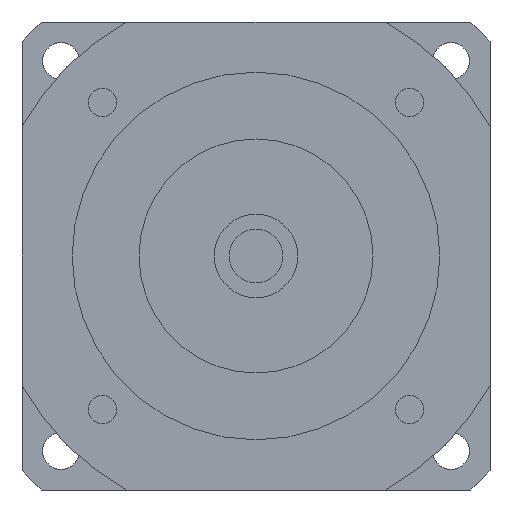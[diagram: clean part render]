
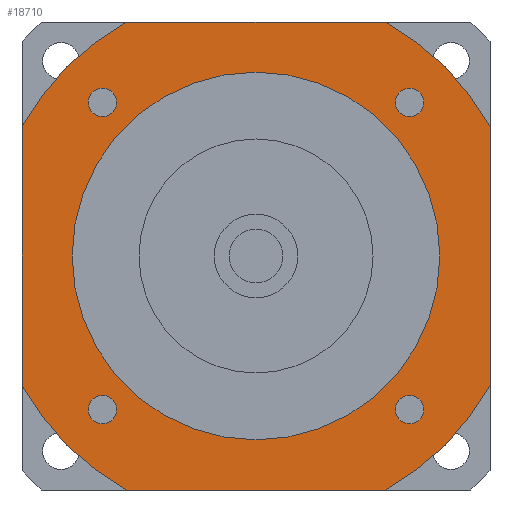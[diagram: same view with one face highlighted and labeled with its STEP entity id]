
A CAD part, left-side view. The second image highlights one B-rep face of the part: STEP entity #18710.
In plain terms, the highlighted planar face has unit normal (-1, 0, 0) as drawn and (0, 0, -1) by its records, which use the part's own axes.
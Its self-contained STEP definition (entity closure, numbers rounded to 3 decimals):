
#15900=CARTESIAN_POINT('',(-38.73,-70.,-59.7));
#15910=VERTEX_POINT('',#15900);
#15940=CARTESIAN_POINT('',(0.,0.,
-59.7));
#15950=DIRECTION('',(0.,0.,-1.));
#15960=DIRECTION('',(1.,0.,0.));
#15970=AXIS2_PLACEMENT_3D('',#15940,#15950,#15960);
#15980=CIRCLE('',#15970,80.);
#15990=CARTESIAN_POINT('',(-70.,-38.73,-59.7));
#16000=VERTEX_POINT('',#15990);
#16010=EDGE_CURVE('',#15910,#16000,#15980,.T.);
#16190=CARTESIAN_POINT('',(-70.,-70.,-59.7));
#16200=DIRECTION('',(0.,1.,0.));
#16210=VECTOR('',#16200,1000.);
#16220=LINE('',#16190,#16210);
#16230=CARTESIAN_POINT('',(-70.,38.73,-59.7));
#16240=VERTEX_POINT('',#16230);
#16250=EDGE_CURVE('',#16000,#16240,#16220,.T.);
#16460=CARTESIAN_POINT('',(70.,-38.73,-59.7));
#16470=VERTEX_POINT('',#16460);
#16500=CARTESIAN_POINT('',(0.,0.,
-59.7));
#16510=DIRECTION('',(0.,0.,-1.));
#16520=DIRECTION('',(1.,0.,0.));
#16530=AXIS2_PLACEMENT_3D('',#16500,#16510,#16520);
#16540=CIRCLE('',#16530,80.);
#16550=CARTESIAN_POINT('',(38.73,-70.,-59.7));
#16560=VERTEX_POINT('',#16550);
#16570=EDGE_CURVE('',#16470,#16560,#16540,.T.);
#16750=CARTESIAN_POINT('',(70.,-70.,-59.7));
#16760=DIRECTION('',(-1.,0.,0.));
#16770=VECTOR('',#16760,1000.);
#16780=LINE('',#16750,#16770);
#16790=EDGE_CURVE('',#16560,#15910,#16780,.T.);
#16950=CARTESIAN_POINT('',(-38.73,70.,-59.7));
#16960=VERTEX_POINT('',#16950);
#16990=CARTESIAN_POINT('',(-70.,70.,-59.7));
#17000=DIRECTION('',(1.,0.,0.));
#17010=VECTOR('',#17000,1000.);
#17020=LINE('',#16990,#17010);
#17030=CARTESIAN_POINT('',(38.73,70.,-59.7));
#17040=VERTEX_POINT('',#17030);
#17050=EDGE_CURVE('',#16960,#17040,#17020,.T.);
#17250=CARTESIAN_POINT('',(0.,0.,
-59.7));
#17260=DIRECTION('',(0.,0.,-1.));
#17270=DIRECTION('',(1.,0.,0.));
#17280=AXIS2_PLACEMENT_3D('',#17250,#17260,#17270);
#17290=CIRCLE('',#17280,80.);
#17300=EDGE_CURVE('',#16240,#16960,#17290,.T.);
#17410=CARTESIAN_POINT('',(0.,0.,
-59.7));
#17420=DIRECTION('',(0.,0.,-1.));
#17430=DIRECTION('',(1.,0.,0.));
#17440=AXIS2_PLACEMENT_3D('',#17410,#17420,#17430);
#17450=CIRCLE('',#17440,80.);
#17460=CARTESIAN_POINT('',(70.,38.73,-59.7));
#17470=VERTEX_POINT('',#17460);
#17480=EDGE_CURVE('',#17040,#17470,#17450,.T.);
#17660=CARTESIAN_POINT('',(70.,70.,-59.7));
#17670=DIRECTION('',(0.,-1.,0.));
#17680=VECTOR('',#17670,1000.);
#17690=LINE('',#17660,#17680);
#17700=EDGE_CURVE('',#17470,#16470,#17690,.T.);
#17770=CARTESIAN_POINT('',(70.,70.,-59.7));
#17780=DIRECTION('',(0.,0.,-1.));
#17790=DIRECTION('',(1.,0.,0.));
#17800=AXIS2_PLACEMENT_3D('',#17770,#17780,#17790);
#17810=PLANE('',#17800);
#17820=CARTESIAN_POINT('',(-45.962,-45.962,-59.7));
#17830=DIRECTION('',(0.,0.,-1.));
#17840=DIRECTION('',(0.,-1.,0.));
#17850=AXIS2_PLACEMENT_3D('',#17820,#17830,#17840);
#17860=CIRCLE('',#17850,4.25);
#17870=CARTESIAN_POINT('',(-45.962,-50.212,-59.7));
#17880=VERTEX_POINT('',#17870);
#17890=CARTESIAN_POINT('',(-45.962,-41.712,-59.7));
#17900=VERTEX_POINT('',#17890);
#17910=EDGE_CURVE('',#17880,#17900,#17860,.T.);
#17920=ORIENTED_EDGE('',*,*,#17910,.F.);
#17930=EDGE_CURVE('',#17900,#17880,#17860,.T.);
#17940=ORIENTED_EDGE('',*,*,#17930,.F.);
#17950=EDGE_LOOP('',(#17940,#17920));
#17960=FACE_BOUND('',#17950,.T.);
#17970=CARTESIAN_POINT('',(-45.962,45.962,-59.7));
#17980=DIRECTION('',(0.,0.,-1.));
#17990=DIRECTION('',(-1.,0.,0.));
#18000=AXIS2_PLACEMENT_3D('',#17970,#17980,#17990);
#18010=CIRCLE('',#18000,4.25);
#18020=CARTESIAN_POINT('',(-50.212,45.962,-59.7));
#18030=VERTEX_POINT('',#18020);
#18040=CARTESIAN_POINT('',(-41.712,45.962,-59.7));
#18050=VERTEX_POINT('',#18040);
#18060=EDGE_CURVE('',#18030,#18050,#18010,.T.);
#18070=ORIENTED_EDGE('',*,*,#18060,.F.);
#18080=EDGE_CURVE('',#18050,#18030,#18010,.T.);
#18090=ORIENTED_EDGE('',*,*,#18080,.F.);
#18100=EDGE_LOOP('',(#18090,#18070));
#18110=FACE_BOUND('',#18100,.T.);
#18120=CARTESIAN_POINT('',(45.962,45.962,-59.7));
#18130=DIRECTION('',(0.,0.,-1.));
#18140=DIRECTION('',(0.,1.,0.));
#18150=AXIS2_PLACEMENT_3D('',#18120,#18130,#18140);
#18160=CIRCLE('',#18150,4.25);
#18170=CARTESIAN_POINT('',(45.962,50.212,-59.7));
#18180=VERTEX_POINT('',#18170);
#18190=CARTESIAN_POINT('',(45.962,41.712,-59.7));
#18200=VERTEX_POINT('',#18190);
#18210=EDGE_CURVE('',#18180,#18200,#18160,.T.);
#18220=ORIENTED_EDGE('',*,*,#18210,.F.);
#18230=EDGE_CURVE('',#18200,#18180,#18160,.T.);
#18240=ORIENTED_EDGE('',*,*,#18230,.F.);
#18250=EDGE_LOOP('',(#18240,#18220));
#18260=FACE_BOUND('',#18250,.T.);
#18270=CARTESIAN_POINT('',(0.,0.,
-59.7));
#18280=DIRECTION('',(0.,0.,1.));
#18290=DIRECTION('',(0.,1.,0.));
#18300=AXIS2_PLACEMENT_3D('',#18270,#18280,#18290);
#18310=CIRCLE('',#18300,55.);
#18320=CARTESIAN_POINT('',(-55.,0.,-59.7));
#18330=VERTEX_POINT('',#18320);
#18340=CARTESIAN_POINT('',(55.,0.,-59.7));
#18350=VERTEX_POINT('',#18340);
#18360=EDGE_CURVE('',#18330,#18350,#18310,.T.);
#18370=ORIENTED_EDGE('',*,*,#18360,.T.);
#18380=CARTESIAN_POINT('',(0.,55.,-59.7));
#18390=VERTEX_POINT('',#18380);
#18400=EDGE_CURVE('',#18390,#18330,#18310,.T.);
#18410=ORIENTED_EDGE('',*,*,#18400,.T.);
#18420=EDGE_CURVE('',#18350,#18390,#18310,.T.);
#18430=ORIENTED_EDGE('',*,*,#18420,.T.);
#18440=EDGE_LOOP('',(#18430,#18410,#18370));
#18450=FACE_BOUND('',#18440,.T.);
#18460=ORIENTED_EDGE('',*,*,#17050,.T.);
#18470=ORIENTED_EDGE('',*,*,#17300,.T.);
#18480=ORIENTED_EDGE('',*,*,#16250,.T.);
#18490=ORIENTED_EDGE('',*,*,#16010,.T.);
#18500=ORIENTED_EDGE('',*,*,#16790,.T.);
#18510=ORIENTED_EDGE('',*,*,#16570,.T.);
#18520=ORIENTED_EDGE('',*,*,#17700,.T.);
#18530=ORIENTED_EDGE('',*,*,#17480,.T.);
#18540=EDGE_LOOP('',(#18530,#18520,#18510,#18500,#18490,#18480,#18470,
#18460));
#18550=FACE_OUTER_BOUND('',#18540,.T.);
#18560=CARTESIAN_POINT('',(45.962,-45.962,-59.7));
#18570=DIRECTION('',(0.,0.,-1.));
#18580=DIRECTION('',(1.,0.,0.));
#18590=AXIS2_PLACEMENT_3D('',#18560,#18570,#18580);
#18600=CIRCLE('',#18590,4.25);
#18610=CARTESIAN_POINT('',(50.212,-45.962,-59.7));
#18620=VERTEX_POINT('',#18610);
#18630=CARTESIAN_POINT('',(41.712,-45.962,-59.7));
#18640=VERTEX_POINT('',#18630);
#18650=EDGE_CURVE('',#18620,#18640,#18600,.T.);
#18660=ORIENTED_EDGE('',*,*,#18650,.F.);
#18670=EDGE_CURVE('',#18640,#18620,#18600,.T.);
#18680=ORIENTED_EDGE('',*,*,#18670,.F.);
#18690=EDGE_LOOP('',(#18680,#18660));
#18700=FACE_BOUND('',#18690,.T.);
#18710=ADVANCED_FACE('',(#17960,#18110,#18260,#18450,#18550,#18700),
#17810,.T.);
